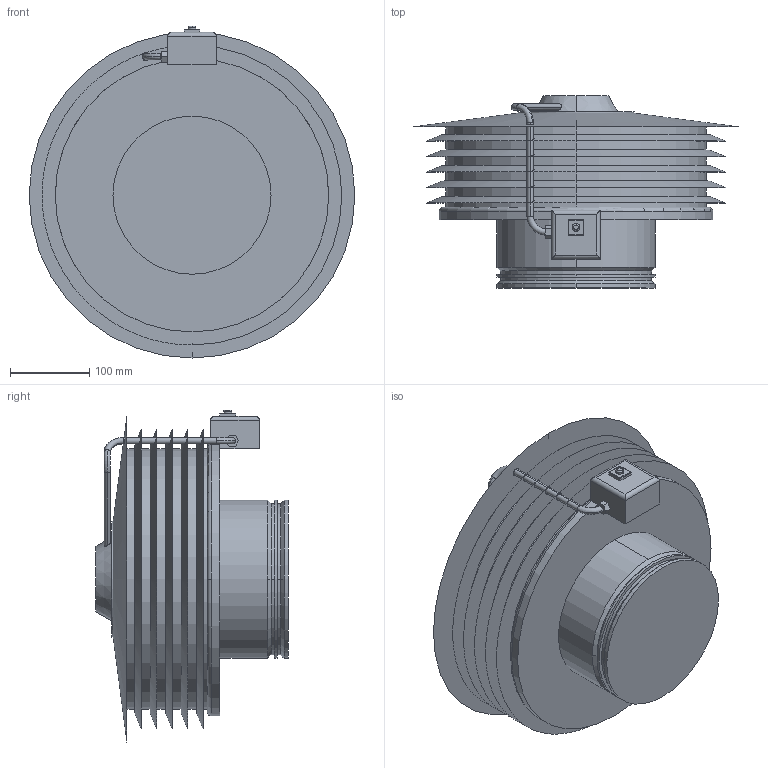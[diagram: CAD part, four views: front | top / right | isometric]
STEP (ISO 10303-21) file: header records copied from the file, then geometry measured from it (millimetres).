
FILE_DESCRIPTION(('STEP AP214'),'1');
FILE_NAME('fan_5136896300.stp','2017-03-31T18:13:14',('TraceParts'),('TraceParts S.A.'),'Spatial InterOp 3D',' ',' ');
FILE_SCHEMA(('automotive_design'));
Length unit declared in the file: millimetre
Products named in the file (1): fan_5136896300
Bounding box: 410 x 242 x 418 mm (x, y, z)
Volume: 14748694.4 mm3; surface area: 728084.2 mm2
Topology: 1 solids, 1 shells, 125 faces, 314 edges, 205 vertices
Faces by surface type: cylinder 48, plane 44, cone 18, torus 11, sphere 4
Entity records: 6255 total; most frequent: CARTESIAN_POINT 2267, DIRECTION 665, ORIENTED_EDGE 616, EDGE_CURVE 308, AXIS2_PLACEMENT_3D 271, VERTEX_POINT 205, EDGE_LOOP 159, CIRCLE 141
